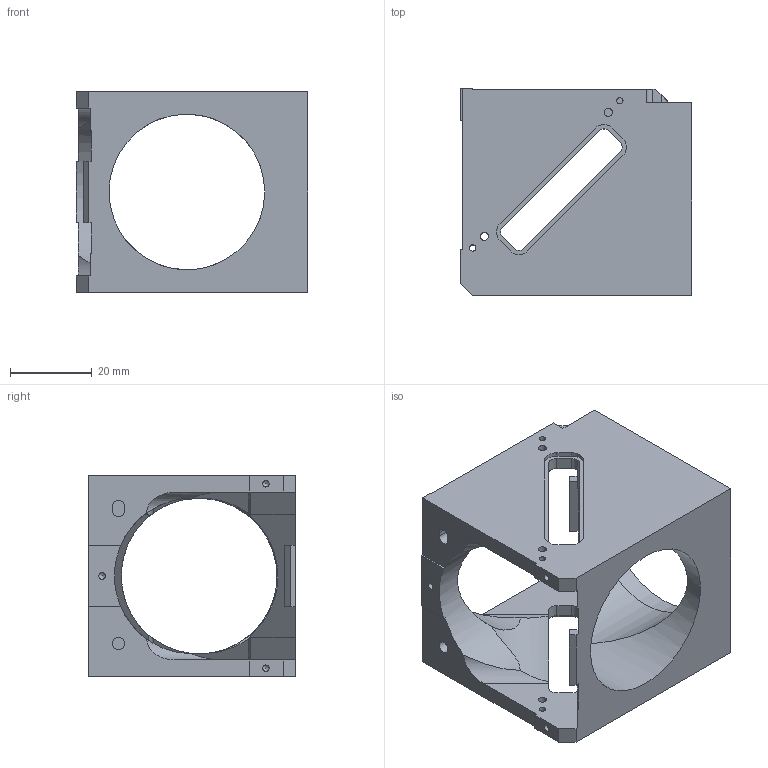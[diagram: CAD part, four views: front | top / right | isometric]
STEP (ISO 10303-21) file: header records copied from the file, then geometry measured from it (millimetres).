
FILE_DESCRIPTION(/* description */ (''),/* implementation_level */ '2;1');
FILE_NAME(/* name */ 'C:\Users\strothej\Documents\ActualDocuments\MicroscopeParts\TwoPhotonSystem\ScanningMechanics\v28\Drawings\Dichroic_40mm_62mm_5mm_Mount.stp',/* time_stamp */ '2017-06-09T14:42:20-07:00',/* author */ ('strothej'),/* organization */ (''),/* preprocessor_version */ 'ST-DEVELOPER v16.1',/* originating_system */ 'Autodesk Inventor 2016',/* authorisation */ '');
FILE_SCHEMA (('AUTOMOTIVE_DESIGN { 1 0 10303 214 3 1 1 }'));
Length unit declared in the file: millimetre
Products named in the file (1): Dichroic_40mm_62mm_5mm_Mount
Bounding box: 56.5 x 50.5 x 49 mm (x, y, z)
Volume: 39339.8 mm3; surface area: 18173.9 mm2
Topology: 1 solids, 1 shells, 135 faces, 398 edges, 264 vertices
Faces by surface type: plane 77, cylinder 49, cone 9
Full cylindrical faces by diameter (mm): 1.567 x12, 2 x3, 3 x1, 38 x2, 41.15 x1
Entity records: 4394 total; most frequent: CARTESIAN_POINT 880, DIRECTION 716, ORIENTED_EDGE 706, EDGE_CURVE 353, VERTEX_POINT 247, AXIS2_PLACEMENT_3D 243, LINE 230, VECTOR 230
